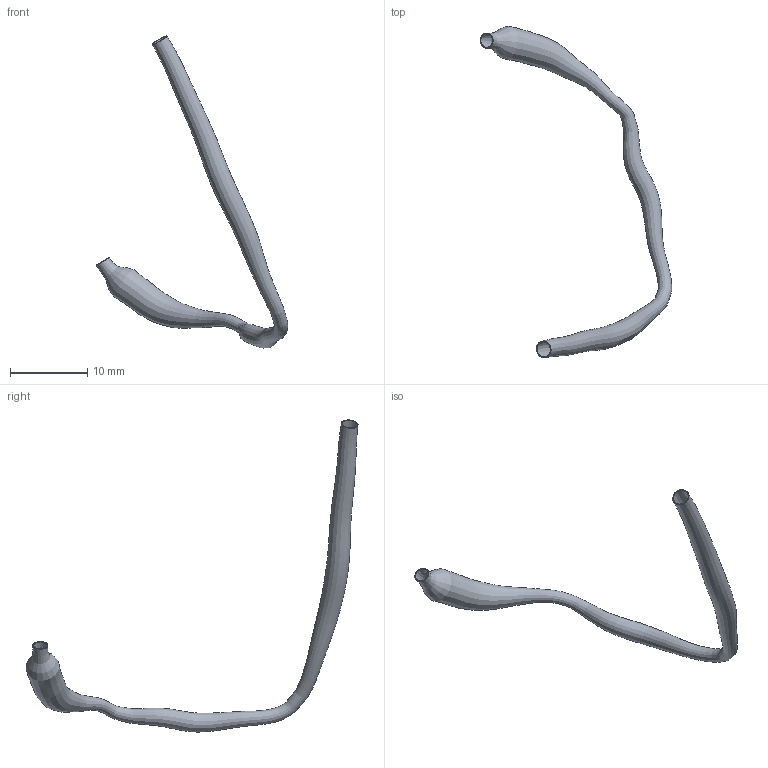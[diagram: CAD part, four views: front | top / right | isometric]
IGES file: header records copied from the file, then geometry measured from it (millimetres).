
Global section: file name: C:\Documents and Settings\Administrator\Desktop\FDA Bifurcation win\RawData_for_IGES\HRCA_Data\20000607.162451\IGES\20000607.162451.RCA.SEG.ES.igs; native system: Rhinoceros ( May 19 2006 ); preprocessor: Trout Lake IGES 012 May 19 2006; date: 100728.201424; units: centimetre
Bounding box: 24.85 x 43.05 x 40.47 mm (x, y, z)
Surface area: 1345 mm2 (no closed solid volume)
Topology: 0 solids, 0 shells, 4 faces, 12 edges, 8 vertices
Faces by surface type: bspline 4
